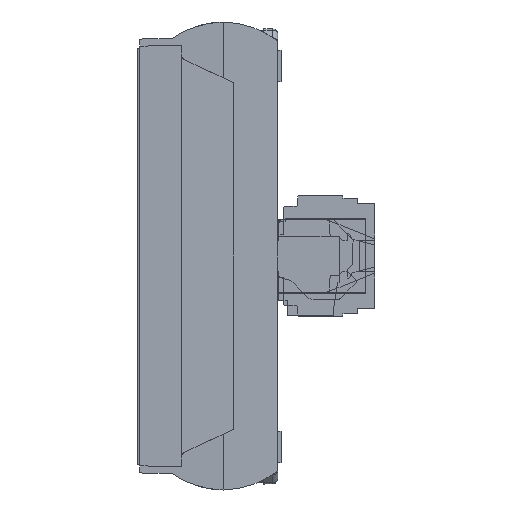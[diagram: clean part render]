
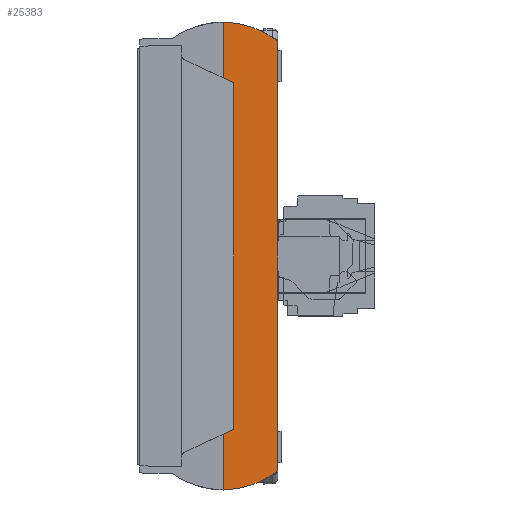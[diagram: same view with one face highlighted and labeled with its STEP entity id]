
A CAD part, left-side view. The second image highlights one B-rep face of the part: STEP entity #25383.
In plain terms, the highlighted planar face has unit normal (-1, -0.018, 0) as drawn and (1, 0, 0.017) by its records, which use the part's own axes.
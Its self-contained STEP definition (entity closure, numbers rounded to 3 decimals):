
#7481=CARTESIAN_POINT('',(10.967,-40.834,27.011));
#7482=VERTEX_POINT('',#7481);
#7489=CARTESIAN_POINT('',(10.967,40.834,27.011));
#7490=VERTEX_POINT('',#7489);
#7491=CARTESIAN_POINT('',(10.967,-40.834,27.011));
#7492=DIRECTION('',(0.0,1.0,0.0));
#7493=VECTOR('',#7492,81.668);
#7494=LINE('',#7491,#7493);
#7495=EDGE_CURVE('',#7490,#7482,#7494,.F.);
#9474=CARTESIAN_POINT('',(11.15,45.,16.511));
#9475=VERTEX_POINT('',#9474);
#9523=CARTESIAN_POINT('',(11.15,34.271,16.511));
#9524=VERTEX_POINT('',#9523);
#9525=CARTESIAN_POINT('',(11.15,45.,16.511));
#9526=DIRECTION('',(0.0,-1.0,0.0));
#9527=VECTOR('',#9526,10.729);
#9528=LINE('',#9525,#9527);
#9529=EDGE_CURVE('',#9475,#9524,#9528,.T.);
#9631=CARTESIAN_POINT('',(10.974,41.645,26.596));
#9632=VERTEX_POINT('',#9631);
#9633=CARTESIAN_POINT('',(11.155,27.232,16.201));
#9634=DIRECTION('',(1.,0.,0.017));
#9635=DIRECTION('',(-0.017,0.,1.));
#9636=AXIS2_PLACEMENT_3D('',#9633,#9634,#9635);
#9637=ELLIPSE('',#9636,17.773,17.77);
#9638=EDGE_CURVE('',#9475,#9632,#9637,.T.);
#9816=CARTESIAN_POINT('',(11.15,-45.,16.511));
#9817=VERTEX_POINT('',#9816);
#9864=CARTESIAN_POINT('',(10.974,-41.645,26.596));
#9865=VERTEX_POINT('',#9864);
#9866=CARTESIAN_POINT('',(11.155,-27.232,16.201));
#9867=DIRECTION('',(-1.,0.,-0.017));
#9868=DIRECTION('',(-0.017,0.,1.));
#9869=AXIS2_PLACEMENT_3D('',#9866,#9867,#9868);
#9870=ELLIPSE('',#9869,17.773,17.77);
#9871=EDGE_CURVE('',#9817,#9865,#9870,.T.);
#9917=CARTESIAN_POINT('',(10.984,-40.834,26.011));
#9918=DIRECTION('',(-1.,0.,-0.017));
#9919=DIRECTION('',(-0.017,0.,1.));
#9920=AXIS2_PLACEMENT_3D('',#9917,#9918,#9919);
#9921=ELLIPSE('',#9920,1.,1.);
#9922=EDGE_CURVE('',#9865,#7482,#9921,.T.);
#10248=CARTESIAN_POINT('',(10.984,40.834,26.011));
#10249=DIRECTION('',(-1.,0.,-0.017));
#10250=DIRECTION('',(-0.017,0.,1.));
#10251=AXIS2_PLACEMENT_3D('',#10248,#10249,#10250);
#10252=ELLIPSE('',#10251,1.,1.0);
#10253=EDGE_CURVE('',#7490,#9632,#10252,.T.);
#10945=CARTESIAN_POINT('',(11.15,-34.271,16.511));
#10946=VERTEX_POINT('',#10945);
#10947=CARTESIAN_POINT('',(11.15,-45.,16.511));
#10948=DIRECTION('',(0.0,1.0,0.0));
#10949=VECTOR('',#10948,10.729);
#10950=LINE('',#10947,#10949);
#10951=EDGE_CURVE('',#9817,#10946,#10950,.T.);
#25347=CARTESIAN_POINT('',(11.15,42.,16.511));
#25348=DIRECTION('',(1.,0.,0.017));
#25349=DIRECTION('',(0.0,1.0,0.0));
#25350=AXIS2_PLACEMENT_3D('',#25347,#25348,#25349);
#25351=PLANE('',#25350);
#25352=ORIENTED_EDGE('',*,*,#9529,.F.);
#25353=ORIENTED_EDGE('',*,*,#9638,.T.);
#25354=ORIENTED_EDGE('',*,*,#10253,.F.);
#25355=ORIENTED_EDGE('',*,*,#7495,.T.);
#25356=ORIENTED_EDGE('',*,*,#9922,.F.);
#25357=ORIENTED_EDGE('',*,*,#9871,.F.);
#25358=ORIENTED_EDGE('',*,*,#10951,.T.);
#25359=CARTESIAN_POINT('',(11.115,-33.337,18.514));
#25360=VERTEX_POINT('',#25359);
#25361=CARTESIAN_POINT('',(11.115,-33.337,18.514));
#25362=DIRECTION('',(0.016,-0.423,-0.906));
#25363=VECTOR('',#25362,2.21);
#25364=LINE('',#25361,#25363);
#25365=EDGE_CURVE('',#25360,#10946,#25364,.T.);
#25366=ORIENTED_EDGE('',*,*,#25365,.F.);
#25367=CARTESIAN_POINT('',(11.115,33.337,18.514));
#25368=VERTEX_POINT('',#25367);
#25369=CARTESIAN_POINT('',(11.115,33.337,18.514));
#25370=DIRECTION('',(0.0,-1.0,0.0));
#25371=VECTOR('',#25370,66.674);
#25372=LINE('',#25369,#25371);
#25373=EDGE_CURVE('',#25368,#25360,#25372,.T.);
#25374=ORIENTED_EDGE('',*,*,#25373,.F.);
#25375=CARTESIAN_POINT('',(11.15,34.271,16.511));
#25376=DIRECTION('',(-0.016,-0.423,0.906));
#25377=VECTOR('',#25376,2.21);
#25378=LINE('',#25375,#25377);
#25379=EDGE_CURVE('',#9524,#25368,#25378,.T.);
#25380=ORIENTED_EDGE('',*,*,#25379,.F.);
#25381=EDGE_LOOP('',(#25352,#25353,#25354,#25355,#25356,#25357,#25358,#25366,#25374,#25380));
#25382=FACE_OUTER_BOUND('',#25381,.T.);
#25383=ADVANCED_FACE('',(#25382),#25351,.T.);
